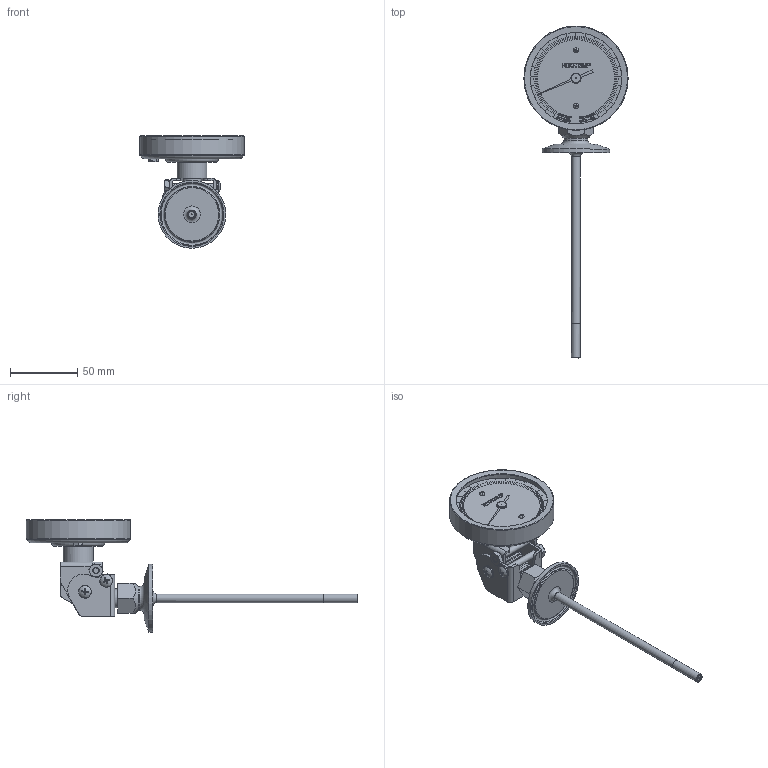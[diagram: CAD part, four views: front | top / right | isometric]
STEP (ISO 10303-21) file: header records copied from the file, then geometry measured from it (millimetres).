
FILE_DESCRIPTION(/* description */ (''),/* implementation_level */ '2;1');
FILE_NAME(/* name */ 'P:\3D Drawings\Bimet\LL\LL-1in-SANITARY\LL-1in-SANITARY-STP\LL-1in-SANITARY-STP.stp',/* time_stamp */ '2015-11-09T14:54:34-08:00',/* author */ ('charles'),/* organization */ (''),/* preprocessor_version */ 'ST-DEVELOPER v15.2',/* originating_system */ 'Autodesk Inventor 2014',/* authorisation */ '');
FILE_SCHEMA (('AUTOMOTIVE_DESIGN { 1 0 10303 214 3 1 1 }'));
Products named in the file (1): LL-1in-SANITARY
Bounding box: 77.47 x 246.54 x 83.6 mm (x, y, z)
Volume: 76110.6 mm3; surface area: 65961 mm2
Topology: 32 solids, 51 shells, 2115 faces, 5902 edges, 3903 vertices
Faces by surface type: plane 1411, bspline 395, cylinder 149, cone 90, torus 66, sphere 4
Full cylindrical faces by diameter (mm): 0.311 x1, 0.772 x1, 2.286 x4, 4.542 x1, 4.826 x6, 5.08 x2, 6.02 x1, 6.35 x1, 6.714 x1, 6.934 x2, 9.474 x4, 13.97 x3, 17.691 x1, 22.225 x1, 25.929 x1, 50.394 x1, 67.855 x1, 70.612 x2, 73.406 x1, 75.946 x1, 76.2 x1, 77.47 x1
Entity records: 74464 total; most frequent: CARTESIAN_POINT 21050, ORIENTED_EDGE 11502, DIRECTION 8658, EDGE_CURVE 5750, LINE 4198, VECTOR 4198, VERTEX_POINT 3854, EDGE_LOOP 2673
